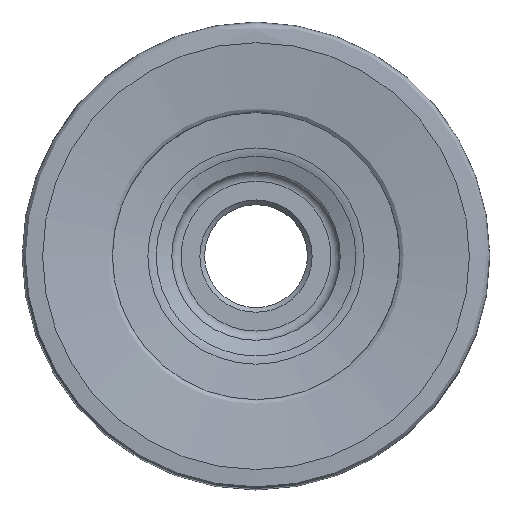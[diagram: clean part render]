
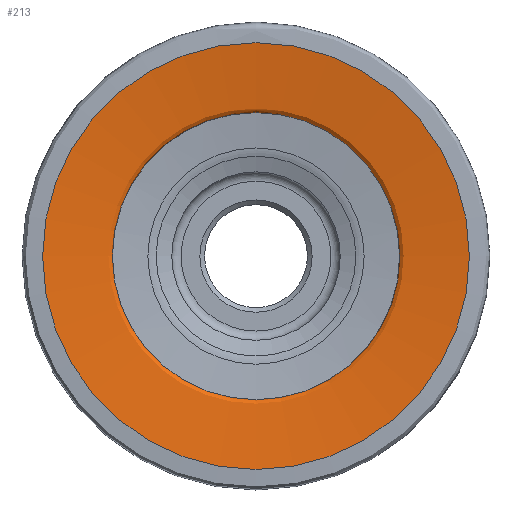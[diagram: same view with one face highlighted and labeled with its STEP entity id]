
A CAD part, left-side view. The second image highlights one B-rep face of the part: STEP entity #213.
In plain terms, the highlighted face is a revolution surface.
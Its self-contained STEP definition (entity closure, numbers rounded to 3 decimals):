
#61=SURFACE_OF_REVOLUTION('',#297,#63);
#63=AXIS1_PLACEMENT('',#1657,#1129);
#213=ADVANCED_FACE('',(#352,#353),#61,.F.);
#297=B_SPLINE_CURVE_WITH_KNOTS('',3,(#1602,#1603,#1604,#1605,#1606,#1607,
#1608,#1609,#1610,#1611,#1612,#1613,#1614,#1615,#1616,#1617,#1618,#1619,
#1620,#1621,#1622,#1623,#1624,#1625,#1626,#1627,#1628,#1629,#1630,#1631,
#1632,#1633,#1634,#1635,#1636,#1637,#1638,#1639,#1640,#1641,#1642,#1643,
#1644,#1645,#1646,#1647,#1648,#1649,#1650,#1651,#1652,#1653,#1654,#1655,
#1656),.UNSPECIFIED.,.F.,.F.,(4,3,3,3,3,3,3,3,3,3,3,3,3,3,3,3,3,3,4),(0.,
0.041,0.052,0.062,0.072,
0.083,0.093,0.106,0.135,
0.561,0.668,0.695,0.701,
0.707,0.717,0.727,0.741,0.827,
1.),.UNSPECIFIED.);
#352=FACE_BOUND('',#432,.T.);
#353=FACE_BOUND('',#433,.T.);
#432=EDGE_LOOP('',(#614));
#433=EDGE_LOOP('',(#615));
#614=ORIENTED_EDGE('',*,*,#773,.F.);
#615=ORIENTED_EDGE('',*,*,#772,.F.);
#681=VERTEX_POINT('',#1570);
#682=VERTEX_POINT('',#1572);
#772=EDGE_CURVE('',#681,#681,#815,.T.);
#773=EDGE_CURVE('',#682,#682,#816,.T.);
#815=CIRCLE('',#909,17.819);
#816=CIRCLE('',#910,22.794);
#909=AXIS2_PLACEMENT_3D('',#1569,#1124,#1125);
#910=AXIS2_PLACEMENT_3D('',#1571,#1126,#1127);
#1124=DIRECTION('',(-1.,0.,0.));
#1125=DIRECTION('',(0.,0.,1.));
#1126=DIRECTION('',(1.,0.,0.));
#1127=DIRECTION('',(0.,0.,1.));
#1129=DIRECTION('',(-1.,0.,0.));
#1569=CARTESIAN_POINT('',(17.532,0.,0.));
#1570=CARTESIAN_POINT('',(17.532,0.,17.819));
#1571=CARTESIAN_POINT('',(0.156,0.,0.));
#1572=CARTESIAN_POINT('',(0.156,0.,22.794));
#1602=CARTESIAN_POINT('',(17.532,17.819,0.));
#1603=CARTESIAN_POINT('',(17.55,17.47,0.));
#1604=CARTESIAN_POINT('',(17.544,17.119,0.));
#1605=CARTESIAN_POINT('',(17.549,16.769,0.));
#1606=CARTESIAN_POINT('',(17.55,16.671,0.));
#1607=CARTESIAN_POINT('',(17.553,16.572,0.));
#1608=CARTESIAN_POINT('',(17.553,16.474,0.));
#1609=CARTESIAN_POINT('',(17.554,16.389,0.));
#1610=CARTESIAN_POINT('',(17.546,16.301,0.));
#1611=CARTESIAN_POINT('',(17.522,16.219,0.));
#1612=CARTESIAN_POINT('',(17.497,16.135,0.));
#1613=CARTESIAN_POINT('',(17.457,16.054,0.));
#1614=CARTESIAN_POINT('',(17.406,15.984,0.));
#1615=CARTESIAN_POINT('',(17.354,15.912,0.));
#1616=CARTESIAN_POINT('',(17.288,15.848,0.));
#1617=CARTESIAN_POINT('',(17.215,15.798,0.));
#1618=CARTESIAN_POINT('',(17.142,15.748,0.));
#1619=CARTESIAN_POINT('',(17.059,15.71,0.));
#1620=CARTESIAN_POINT('',(16.973,15.687,0.));
#1621=CARTESIAN_POINT('',(16.87,15.659,0.));
#1622=CARTESIAN_POINT('',(16.762,15.658,0.));
#1623=CARTESIAN_POINT('',(16.656,15.655,0.));
#1624=CARTESIAN_POINT('',(16.402,15.647,0.));
#1625=CARTESIAN_POINT('',(16.148,15.639,0.));
#1626=CARTESIAN_POINT('',(15.895,15.631,0.));
#1627=CARTESIAN_POINT('',(12.247,15.519,0.));
#1628=CARTESIAN_POINT('',(8.598,15.437,0.));
#1629=CARTESIAN_POINT('',(4.949,15.381,0.));
#1630=CARTESIAN_POINT('',(4.037,15.367,0.));
#1631=CARTESIAN_POINT('',(3.125,15.354,0.));
#1632=CARTESIAN_POINT('',(2.213,15.343,0.));
#1633=CARTESIAN_POINT('',(1.984,15.34,0.));
#1634=CARTESIAN_POINT('',(1.756,15.33,0.));
#1635=CARTESIAN_POINT('',(1.528,15.335,0.));
#1636=CARTESIAN_POINT('',(1.475,15.336,0.));
#1637=CARTESIAN_POINT('',(1.421,15.344,0.));
#1638=CARTESIAN_POINT('',(1.37,15.361,0.));
#1639=CARTESIAN_POINT('',(1.32,15.378,0.));
#1640=CARTESIAN_POINT('',(1.272,15.405,0.));
#1641=CARTESIAN_POINT('',(1.23,15.437,0.));
#1642=CARTESIAN_POINT('',(1.166,15.487,0.));
#1643=CARTESIAN_POINT('',(1.113,15.553,0.));
#1644=CARTESIAN_POINT('',(1.073,15.624,0.));
#1645=CARTESIAN_POINT('',(1.033,15.695,0.));
#1646=CARTESIAN_POINT('',(1.006,15.773,0.));
#1647=CARTESIAN_POINT('',(0.99,15.852,0.));
#1648=CARTESIAN_POINT('',(0.967,15.973,0.));
#1649=CARTESIAN_POINT('',(0.958,16.095,0.));
#1650=CARTESIAN_POINT('',(0.943,16.217,0.));
#1651=CARTESIAN_POINT('',(0.856,16.948,0.));
#1652=CARTESIAN_POINT('',(0.769,17.679,0.));
#1653=CARTESIAN_POINT('',(0.681,18.409,0.));
#1654=CARTESIAN_POINT('',(0.506,19.871,0.));
#1655=CARTESIAN_POINT('',(0.33,21.333,0.));
#1656=CARTESIAN_POINT('',(0.156,22.794,0.));
#1657=CARTESIAN_POINT('',(0.,0.,0.));
